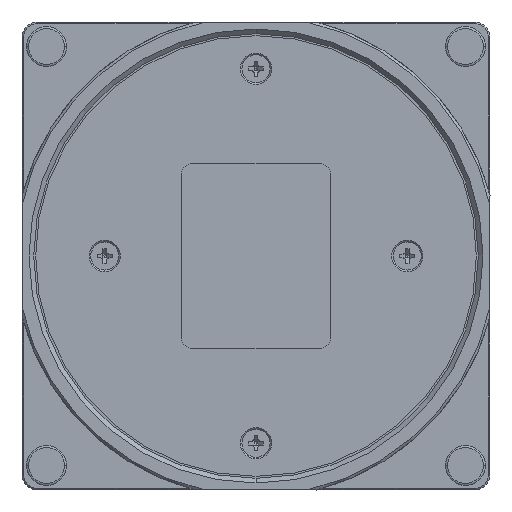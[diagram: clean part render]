
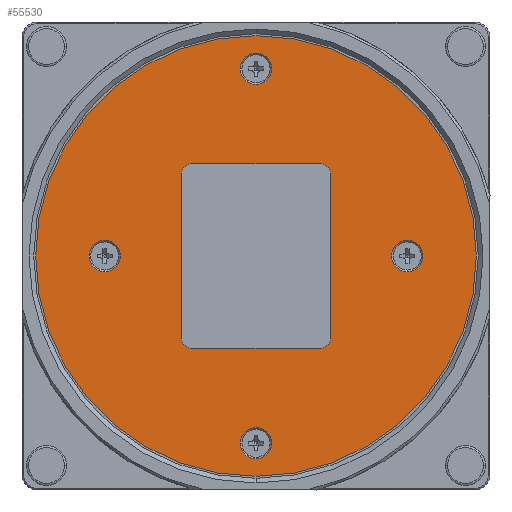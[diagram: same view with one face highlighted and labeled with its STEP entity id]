
A CAD part, left-side view. The second image highlights one B-rep face of the part: STEP entity #55530.
In plain terms, the highlighted planar face has unit normal (-1, 0, 0).
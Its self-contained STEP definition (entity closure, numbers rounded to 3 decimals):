
#20130=CARTESIAN_POINT('',(-0.42,0.,0.));
#20131=DIRECTION('',(1.,0.,0.));
#20132=DIRECTION('',(0.,-1.,0.));
#20133=AXIS2_PLACEMENT_3D('',#20130,#20131,#20132);
#20135=CARTESIAN_POINT('',(-0.42,0.,0.));
#20136=DIRECTION('',(1.,0.,0.));
#20137=DIRECTION('',(0.,1.,0.));
#20138=AXIS2_PLACEMENT_3D('',#20135,#20136,#20137);
#20140=CARTESIAN_POINT('',(-0.42,8.1,-10.35));
#20141=DIRECTION('',(-1.,0.,0.));
#20142=DIRECTION('',(0.,1.,0.));
#20143=AXIS2_PLACEMENT_3D('',#20140,#20141,#20142);
#20145=CARTESIAN_POINT('',(-0.42,-8.1,-10.35));
#20146=DIRECTION('',(-1.,0.,0.));
#20147=DIRECTION('',(0.,0.,-1.));
#20148=AXIS2_PLACEMENT_3D('',#20145,#20146,#20147);
#20150=CARTESIAN_POINT('',(-0.42,-8.1,10.35));
#20151=DIRECTION('',(-1.,0.,0.));
#20152=DIRECTION('',(0.,-1.,0.));
#20153=AXIS2_PLACEMENT_3D('',#20150,#20151,#20152);
#20155=CARTESIAN_POINT('',(-0.42,8.1,10.35));
#20156=DIRECTION('',(-1.,0.,0.));
#20157=DIRECTION('',(0.,0.,1.));
#20158=AXIS2_PLACEMENT_3D('',#20155,#20156,#20157);
#20160=CARTESIAN_POINT('',(-0.42,0.,-24.));
#20161=DIRECTION('',(-1.,0.,0.));
#20162=DIRECTION('',(0.,-1.,0.));
#20163=AXIS2_PLACEMENT_3D('',#20160,#20161,#20162);
#20165=CARTESIAN_POINT('',(-0.42,0.,-24.));
#20166=DIRECTION('',(-1.,0.,0.));
#20167=DIRECTION('',(0.,1.,0.));
#20168=AXIS2_PLACEMENT_3D('',#20165,#20166,#20167);
#20170=CARTESIAN_POINT('',(-0.42,19.4,0.));
#20171=DIRECTION('',(-1.,0.,0.));
#20172=DIRECTION('',(0.,-1.,0.));
#20173=AXIS2_PLACEMENT_3D('',#20170,#20171,#20172);
#20175=CARTESIAN_POINT('',(-0.42,19.4,0.));
#20176=DIRECTION('',(-1.,0.,0.));
#20177=DIRECTION('',(0.,1.,0.));
#20178=AXIS2_PLACEMENT_3D('',#20175,#20176,#20177);
#20180=CARTESIAN_POINT('',(-0.42,-19.4,0.));
#20181=DIRECTION('',(-1.,0.,0.));
#20182=DIRECTION('',(0.,-1.,0.));
#20183=AXIS2_PLACEMENT_3D('',#20180,#20181,#20182);
#20185=CARTESIAN_POINT('',(-0.42,-19.4,0.));
#20186=DIRECTION('',(-1.,0.,0.));
#20187=DIRECTION('',(0.,1.,0.));
#20188=AXIS2_PLACEMENT_3D('',#20185,#20186,#20187);
#20190=CARTESIAN_POINT('',(-0.42,0.,24.));
#20191=DIRECTION('',(-1.,0.,0.));
#20192=DIRECTION('',(0.,-1.,0.));
#20193=AXIS2_PLACEMENT_3D('',#20190,#20191,#20192);
#20195=CARTESIAN_POINT('',(-0.42,0.,24.));
#20196=DIRECTION('',(-1.,0.,0.));
#20197=DIRECTION('',(0.,1.,0.));
#20198=AXIS2_PLACEMENT_3D('',#20195,#20196,#20197);
#20200=DIRECTION('',(0.,0.,1.));
#20201=VECTOR('',#20200,20.7);
#20202=CARTESIAN_POINT('',(-0.42,9.6,-10.35));
#20203=LINE('',#20202,#20201);
#20248=DIRECTION('',(0.,-1.,0.));
#20249=VECTOR('',#20248,16.2);
#20250=CARTESIAN_POINT('',(-0.42,8.1,11.85));
#20251=LINE('',#20250,#20249);
#20260=DIRECTION('',(0.,0.,-1.));
#20261=VECTOR('',#20260,20.7);
#20262=CARTESIAN_POINT('',(-0.42,-9.6,10.35));
#20263=LINE('',#20262,#20261);
#20272=DIRECTION('',(0.,1.,0.));
#20273=VECTOR('',#20272,16.2);
#20274=CARTESIAN_POINT('',(-0.42,-8.1,-11.85));
#20275=LINE('',#20274,#20273);
#27479=CARTESIAN_POINT('',(-0.42,-28.25,0.));
#27480=CARTESIAN_POINT('',(-0.42,28.25,0.));
#27481=VERTEX_POINT('',#27479);
#27482=VERTEX_POINT('',#27480);
#27483=CARTESIAN_POINT('',(-0.42,9.6,-10.35));
#27484=CARTESIAN_POINT('',(-0.42,9.6,10.35));
#27485=VERTEX_POINT('',#27483);
#27486=VERTEX_POINT('',#27484);
#27487=CARTESIAN_POINT('',(-0.42,8.1,-11.85));
#27488=VERTEX_POINT('',#27487);
#27489=CARTESIAN_POINT('',(-0.42,-8.1,-11.85));
#27490=VERTEX_POINT('',#27489);
#27491=CARTESIAN_POINT('',(-0.42,-9.6,-10.35));
#27492=VERTEX_POINT('',#27491);
#27493=CARTESIAN_POINT('',(-0.42,-9.6,10.35));
#27494=VERTEX_POINT('',#27493);
#27495=CARTESIAN_POINT('',(-0.42,-8.1,11.85));
#27496=VERTEX_POINT('',#27495);
#27497=CARTESIAN_POINT('',(-0.42,8.1,11.85));
#27498=VERTEX_POINT('',#27497);
#27499=CARTESIAN_POINT('',(-0.42,-2.,-24.));
#27500=CARTESIAN_POINT('',(-0.42,2.,-24.));
#27501=VERTEX_POINT('',#27499);
#27502=VERTEX_POINT('',#27500);
#27503=CARTESIAN_POINT('',(-0.42,17.4,0.));
#27504=CARTESIAN_POINT('',(-0.42,21.4,0.));
#27505=VERTEX_POINT('',#27503);
#27506=VERTEX_POINT('',#27504);
#27507=CARTESIAN_POINT('',(-0.42,-21.4,0.));
#27508=CARTESIAN_POINT('',(-0.42,-17.4,0.));
#27509=VERTEX_POINT('',#27507);
#27510=VERTEX_POINT('',#27508);
#27511=CARTESIAN_POINT('',(-0.42,-2.,24.));
#27512=CARTESIAN_POINT('',(-0.42,2.,24.));
#27513=VERTEX_POINT('',#27511);
#27514=VERTEX_POINT('',#27512);
#55479=CARTESIAN_POINT('',(-0.42,0.,0.));
#55480=DIRECTION('',(1.,0.,0.));
#55481=DIRECTION('',(0.,1.,0.));
#55482=AXIS2_PLACEMENT_3D('',#55479,#55480,#55481);
#55483=PLANE('',#55482);
#55484=ORIENTED_EDGE('',*,*,#55459,.T.);
#55485=ORIENTED_EDGE('',*,*,#55473,.T.);
#55486=EDGE_LOOP('',(#55484,#55485));
#55487=FACE_OUTER_BOUND('',#55486,.F.);
#55489=ORIENTED_EDGE('',*,*,#55488,.F.);
#55491=ORIENTED_EDGE('',*,*,#55490,.T.);
#55493=ORIENTED_EDGE('',*,*,#55492,.F.);
#55495=ORIENTED_EDGE('',*,*,#55494,.T.);
#55497=ORIENTED_EDGE('',*,*,#55496,.F.);
#55499=ORIENTED_EDGE('',*,*,#55498,.T.);
#55501=ORIENTED_EDGE('',*,*,#55500,.F.);
#55503=ORIENTED_EDGE('',*,*,#55502,.T.);
#55504=EDGE_LOOP('',(#55489,#55491,#55493,#55495,#55497,#55499,#55501,#55503));
#55505=FACE_BOUND('',#55504,.F.);
#55507=ORIENTED_EDGE('',*,*,#55506,.T.);
#55509=ORIENTED_EDGE('',*,*,#55508,.T.);
#55510=EDGE_LOOP('',(#55507,#55509));
#55511=FACE_BOUND('',#55510,.F.);
#55513=ORIENTED_EDGE('',*,*,#55512,.T.);
#55515=ORIENTED_EDGE('',*,*,#55514,.T.);
#55516=EDGE_LOOP('',(#55513,#55515));
#55517=FACE_BOUND('',#55516,.F.);
#55519=ORIENTED_EDGE('',*,*,#55518,.T.);
#55521=ORIENTED_EDGE('',*,*,#55520,.T.);
#55522=EDGE_LOOP('',(#55519,#55521));
#55523=FACE_BOUND('',#55522,.F.);
#55525=ORIENTED_EDGE('',*,*,#55524,.T.);
#55527=ORIENTED_EDGE('',*,*,#55526,.T.);
#55528=EDGE_LOOP('',(#55525,#55527));
#55529=FACE_BOUND('',#55528,.F.);
#55530=ADVANCED_FACE('',(#55487,#55505,#55511,#55517,#55523,#55529),#55483,.F.);
#20134=CIRCLE('',#20133,28.25);
#20139=CIRCLE('',#20138,28.25);
#20144=CIRCLE('',#20143,1.5);
#20149=CIRCLE('',#20148,1.5);
#20154=CIRCLE('',#20153,1.5);
#20159=CIRCLE('',#20158,1.5);
#20164=CIRCLE('',#20163,2.);
#20169=CIRCLE('',#20168,2.);
#20174=CIRCLE('',#20173,2.);
#20179=CIRCLE('',#20178,2.);
#20184=CIRCLE('',#20183,2.);
#20189=CIRCLE('',#20188,2.);
#20194=CIRCLE('',#20193,2.);
#20199=CIRCLE('',#20198,2.);
#55459=EDGE_CURVE('',#27481,#27482,#20134,.T.);
#55473=EDGE_CURVE('',#27482,#27481,#20139,.T.);
#55488=EDGE_CURVE('',#27485,#27486,#20203,.T.);
#55490=EDGE_CURVE('',#27485,#27488,#20144,.T.);
#55492=EDGE_CURVE('',#27490,#27488,#20275,.T.);
#55494=EDGE_CURVE('',#27490,#27492,#20149,.T.);
#55496=EDGE_CURVE('',#27494,#27492,#20263,.T.);
#55498=EDGE_CURVE('',#27494,#27496,#20154,.T.);
#55500=EDGE_CURVE('',#27498,#27496,#20251,.T.);
#55502=EDGE_CURVE('',#27498,#27486,#20159,.T.);
#55506=EDGE_CURVE('',#27501,#27502,#20164,.T.);
#55508=EDGE_CURVE('',#27502,#27501,#20169,.T.);
#55512=EDGE_CURVE('',#27505,#27506,#20174,.T.);
#55514=EDGE_CURVE('',#27506,#27505,#20179,.T.);
#55518=EDGE_CURVE('',#27509,#27510,#20184,.T.);
#55520=EDGE_CURVE('',#27510,#27509,#20189,.T.);
#55524=EDGE_CURVE('',#27513,#27514,#20194,.T.);
#55526=EDGE_CURVE('',#27514,#27513,#20199,.T.);
